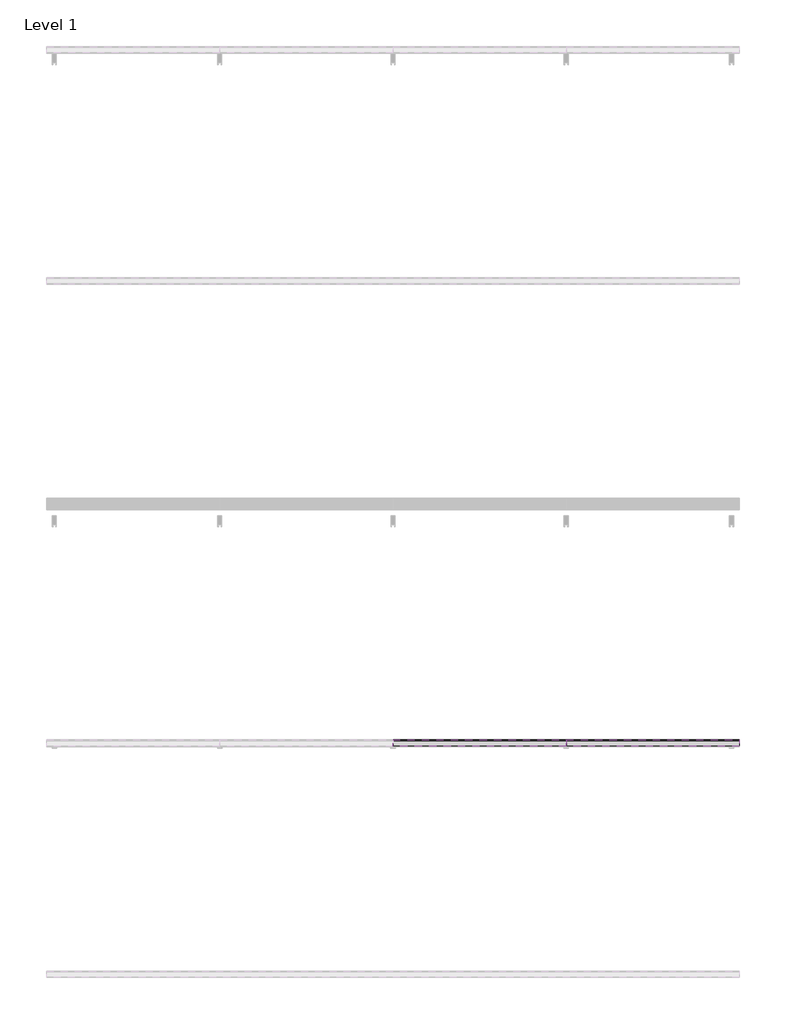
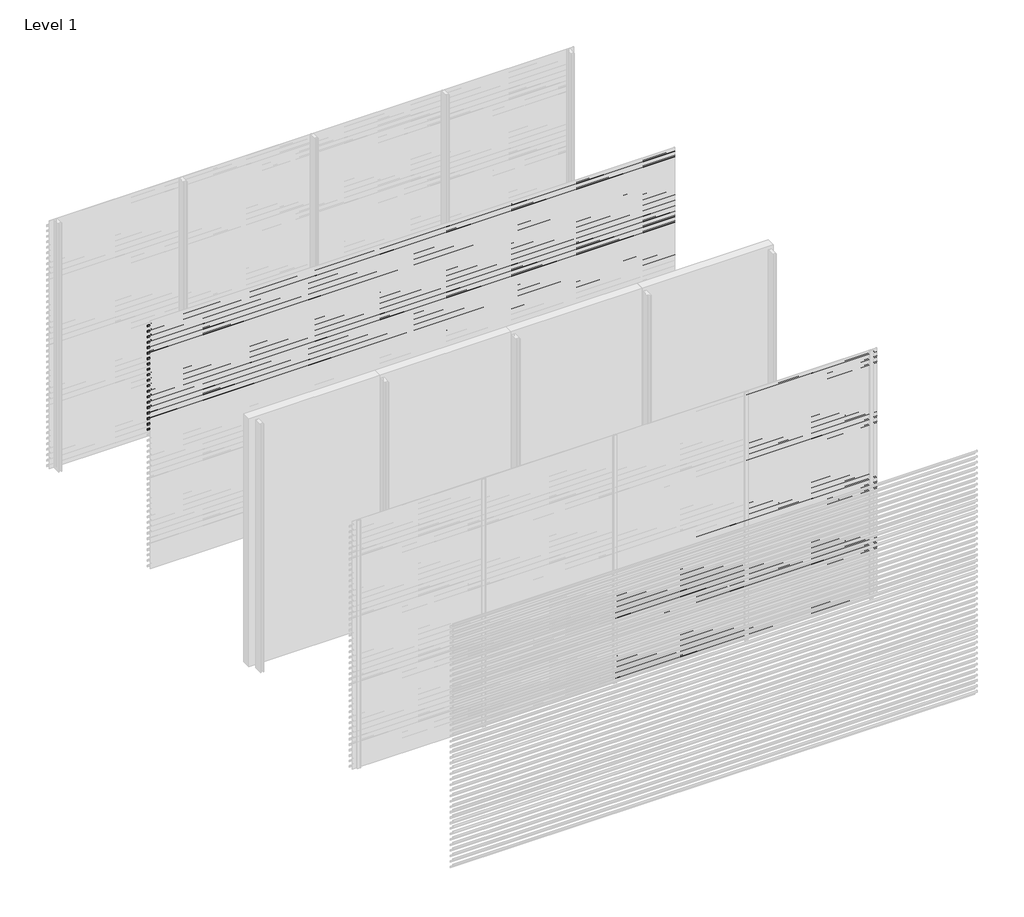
# One storey, part 15 of 25: 87 proxies.
"""IFC4 building model written with IfcOpenShell, lengths in millimetres."""

from ifc_helpers import new_model, si_unit, frame, origin, place, context, project, spatial, polyline, outline, extrude, element, save

model = new_model("IFC4")

# Units and contexts
model_context = context("Model", 3, world=origin())
ifc_project = project(units=[si_unit("LENGTHUNIT", "METRE", prefix="MILLI")], contexts=[model_context])

# Site, building, storey
site = spatial("IfcSite", under=ifc_project)
building = spatial("IfcBuilding", under=site)
storey = spatial("IfcBuildingStorey", under=building, Name="Level 1", Elevation=0.0)

# Proxies
placement = place(None, origin())
element("IfcBuildingElementProxy", 1, Name="Wall Sweeps", at=placement, inside=storey, context=model_context, shape_type="SweptSolid", body=[
    extrude(outline(polyline([(-19943.0, 2913.5), (-19943.0, 2893.5), (-19944.25, 2894.2216933), (-19944.25, 2912.7872415), (-19998.0, 2950.3158044), (-19998.0, 2970.0), (-19996.75, 2970.0), (-19996.75, 2951.0285629), (-19943.0, 2913.5)])), frame((0.0, 0.0, 0.0), z_axis=(1.0, 0.0, 0.0), x_axis=(0.0, 1.0, 0.0)), (0.0, 0.0, 1.0), 6000.0),
])
element("IfcBuildingElementProxy", 2, Name="Wall Sweeps", at=placement, inside=storey, context=model_context, shape_type="SweptSolid", body=[
    extrude(outline(polyline([(-19943.0, 2847.5), (-19943.0, 2827.5), (-19944.25, 2828.2216933), (-19944.25, 2846.7872415), (-19998.0, 2884.3158044), (-19998.0, 2904.0), (-19996.75, 2904.0), (-19996.75, 2885.0285629), (-19943.0, 2847.5)])), frame((0.0, 0.0, 0.0), z_axis=(1.0, 0.0, 0.0), x_axis=(0.0, 1.0, 0.0)), (0.0, 0.0, 1.0), 6000.0),
])
element("IfcBuildingElementProxy", 3, Name="Wall Sweeps", at=placement, inside=storey, context=model_context, shape_type="SweptSolid", body=[
    extrude(outline(polyline([(-19943.0, 2781.5), (-19943.0, 2761.5), (-19944.25, 2762.2216933), (-19944.25, 2780.7872415), (-19998.0, 2818.3158044), (-19998.0, 2838.0), (-19996.75, 2838.0), (-19996.75, 2819.0285629), (-19943.0, 2781.5)])), frame((0.0, 0.0, 0.0), z_axis=(1.0, 0.0, 0.0), x_axis=(0.0, 1.0, 0.0)), (0.0, 0.0, 1.0), 6000.0),
])
element("IfcBuildingElementProxy", 4, Name="Wall Sweeps", at=placement, inside=storey, context=model_context, shape_type="SweptSolid", body=[
    extrude(outline(polyline([(-19943.0, 2715.5), (-19943.0, 2695.5), (-19944.25, 2696.2216933), (-19944.25, 2714.7872415), (-19998.0, 2752.3158044), (-19998.0, 2772.0), (-19996.75, 2772.0), (-19996.75, 2753.0285629), (-19943.0, 2715.5)])), frame((0.0, 0.0, 0.0), z_axis=(1.0, 0.0, 0.0), x_axis=(0.0, 1.0, 0.0)), (0.0, 0.0, 1.0), 6000.0),
])
element("IfcBuildingElementProxy", 5, Name="Wall Sweeps", at=placement, inside=storey, context=model_context, shape_type="SweptSolid", body=[
    extrude(outline(polyline([(-19943.0, 2649.5), (-19943.0, 2629.5), (-19944.25, 2630.2216933), (-19944.25, 2648.7872415), (-19998.0, 2686.3158044), (-19998.0, 2706.0), (-19996.75, 2706.0), (-19996.75, 2687.0285629), (-19943.0, 2649.5)])), frame((0.0, 0.0, 0.0), z_axis=(1.0, 0.0, 0.0), x_axis=(0.0, 1.0, 0.0)), (0.0, 0.0, 1.0), 6000.0),
])
element("IfcBuildingElementProxy", 6, Name="Wall Sweeps", at=placement, inside=storey, context=model_context, shape_type="SweptSolid", body=[
    extrude(outline(polyline([(-19943.0, 2583.5), (-19943.0, 2563.5), (-19944.25, 2564.2216933), (-19944.25, 2582.7872415), (-19998.0, 2620.3158044), (-19998.0, 2640.0), (-19996.75, 2640.0), (-19996.75, 2621.0285629), (-19943.0, 2583.5)])), frame((0.0, 0.0, 0.0), z_axis=(1.0, 0.0, 0.0), x_axis=(0.0, 1.0, 0.0)), (0.0, 0.0, 1.0), 6000.0),
])
element("IfcBuildingElementProxy", 7, Name="Wall Sweeps", at=placement, inside=storey, context=model_context, shape_type="SweptSolid", body=[
    extrude(outline(polyline([(-19943.0, 2517.5), (-19943.0, 2497.5), (-19944.25, 2498.2216933), (-19944.25, 2516.7872415), (-19998.0, 2554.3158044), (-19998.0, 2574.0), (-19996.75, 2574.0), (-19996.75, 2555.0285629), (-19943.0, 2517.5)])), frame((0.0, 0.0, 0.0), z_axis=(1.0, 0.0, 0.0), x_axis=(0.0, 1.0, 0.0)), (0.0, 0.0, 1.0), 6000.0),
])
element("IfcBuildingElementProxy", 8, Name="Wall Sweeps", at=placement, inside=storey, context=model_context, shape_type="SweptSolid", body=[
    extrude(outline(polyline([(-19943.0, 2451.5), (-19943.0, 2431.5), (-19944.25, 2432.2216933), (-19944.25, 2450.7872415), (-19998.0, 2488.3158044), (-19998.0, 2508.0), (-19996.75, 2508.0), (-19996.75, 2489.0285629), (-19943.0, 2451.5)])), frame((0.0, 0.0, 0.0), z_axis=(1.0, 0.0, 0.0), x_axis=(0.0, 1.0, 0.0)), (0.0, 0.0, 1.0), 6000.0),
])
element("IfcBuildingElementProxy", 9, Name="Wall Sweeps", at=placement, inside=storey, context=model_context, shape_type="SweptSolid", body=[
    extrude(outline(polyline([(-19943.0, 2385.5), (-19943.0, 2365.5), (-19944.25, 2366.2216933), (-19944.25, 2384.7872415), (-19998.0, 2422.3158044), (-19998.0, 2442.0), (-19996.75, 2442.0), (-19996.75, 2423.0285629), (-19943.0, 2385.5)])), frame((0.0, 0.0, 0.0), z_axis=(1.0, 0.0, 0.0), x_axis=(0.0, 1.0, 0.0)), (0.0, 0.0, 1.0), 6000.0),
])
element("IfcBuildingElementProxy", 10, Name="Wall Sweeps", at=placement, inside=storey, context=model_context, shape_type="SweptSolid", body=[
    extrude(outline(polyline([(-19943.0, 2319.5), (-19943.0, 2299.5), (-19944.25, 2300.2216933), (-19944.25, 2318.7872415), (-19998.0, 2356.3158044), (-19998.0, 2376.0), (-19996.75, 2376.0), (-19996.75, 2357.0285629), (-19943.0, 2319.5)])), frame((0.0, 0.0, 0.0), z_axis=(1.0, 0.0, 0.0), x_axis=(0.0, 1.0, 0.0)), (0.0, 0.0, 1.0), 6000.0),
])
element("IfcBuildingElementProxy", 11, Name="Wall Sweeps", at=placement, inside=storey, context=model_context, shape_type="SweptSolid", body=[
    extrude(outline(polyline([(-19943.0, 2253.5), (-19943.0, 2233.5), (-19944.25, 2234.2216933), (-19944.25, 2252.7872415), (-19998.0, 2290.3158044), (-19998.0, 2310.0), (-19996.75, 2310.0), (-19996.75, 2291.0285629), (-19943.0, 2253.5)])), frame((0.0, 0.0, 0.0), z_axis=(1.0, 0.0, 0.0), x_axis=(0.0, 1.0, 0.0)), (0.0, 0.0, 1.0), 6000.0),
])
element("IfcBuildingElementProxy", 12, Name="Wall Sweeps", at=placement, inside=storey, context=model_context, shape_type="SweptSolid", body=[
    extrude(outline(polyline([(-19943.0, 2187.5), (-19943.0, 2167.5), (-19944.25, 2168.2216933), (-19944.25, 2186.7872415), (-19998.0, 2224.3158044), (-19998.0, 2244.0), (-19996.75, 2244.0), (-19996.75, 2225.0285629), (-19943.0, 2187.5)])), frame((0.0, 0.0, 0.0), z_axis=(1.0, 0.0, 0.0), x_axis=(0.0, 1.0, 0.0)), (0.0, 0.0, 1.0), 6000.0),
])
element("IfcBuildingElementProxy", 13, Name="Wall Sweeps", at=placement, inside=storey, context=model_context, shape_type="SweptSolid", body=[
    extrude(outline(polyline([(-19943.0, 2121.5), (-19943.0, 2101.5), (-19944.25, 2102.2216933), (-19944.25, 2120.7872415), (-19998.0, 2158.3158044), (-19998.0, 2178.0), (-19996.75, 2178.0), (-19996.75, 2159.0285629), (-19943.0, 2121.5)])), frame((0.0, 0.0, 0.0), z_axis=(1.0, 0.0, 0.0), x_axis=(0.0, 1.0, 0.0)), (0.0, 0.0, 1.0), 6000.0),
])
element("IfcBuildingElementProxy", 14, Name="Wall Sweeps", at=placement, inside=storey, context=model_context, shape_type="SweptSolid", body=[
    extrude(outline(polyline([(-19943.0, 2055.5), (-19943.0, 2035.5), (-19944.25, 2036.2216933), (-19944.25, 2054.7872415), (-19998.0, 2092.3158044), (-19998.0, 2112.0), (-19996.75, 2112.0), (-19996.75, 2093.0285629), (-19943.0, 2055.5)])), frame((0.0, 0.0, 0.0), z_axis=(1.0, 0.0, 0.0), x_axis=(0.0, 1.0, 0.0)), (0.0, 0.0, 1.0), 6000.0),
])
element("IfcBuildingElementProxy", 15, Name="Wall Sweeps", at=placement, inside=storey, context=model_context, shape_type="SweptSolid", body=[
    extrude(outline(polyline([(-19943.0, 1989.5), (-19943.0, 1969.5), (-19944.25, 1970.2216933), (-19944.25, 1988.7872415), (-19998.0, 2026.3158044), (-19998.0, 2046.0), (-19996.75, 2046.0), (-19996.75, 2027.0285629), (-19943.0, 1989.5)])), frame((0.0, 0.0, 0.0), z_axis=(1.0, 0.0, 0.0), x_axis=(0.0, 1.0, 0.0)), (0.0, 0.0, 1.0), 6000.0),
])
element("IfcBuildingElementProxy", 16, Name="Wall Sweeps", at=placement, inside=storey, context=model_context, shape_type="SweptSolid", body=[
    extrude(outline(polyline([(-19943.0, 1923.5), (-19943.0, 1903.5), (-19944.25, 1904.2216933), (-19944.25, 1922.7872415), (-19998.0, 1960.3158044), (-19998.0, 1980.0), (-19996.75, 1980.0), (-19996.75, 1961.0285629), (-19943.0, 1923.5)])), frame((0.0, 0.0, 0.0), z_axis=(1.0, 0.0, 0.0), x_axis=(0.0, 1.0, 0.0)), (0.0, 0.0, 1.0), 6000.0),
])
element("IfcBuildingElementProxy", 17, Name="Wall Sweeps", at=placement, inside=storey, context=model_context, shape_type="SweptSolid", body=[
    extrude(outline(polyline([(-19943.0, 1857.5), (-19943.0, 1837.5), (-19944.25, 1838.2216933), (-19944.25, 1856.7872415), (-19998.0, 1894.3158044), (-19998.0, 1914.0), (-19996.75, 1914.0), (-19996.75, 1895.0285629), (-19943.0, 1857.5)])), frame((0.0, 0.0, 0.0), z_axis=(1.0, 0.0, 0.0), x_axis=(0.0, 1.0, 0.0)), (0.0, 0.0, 1.0), 6000.0),
])
element("IfcBuildingElementProxy", 18, Name="Wall Sweeps", at=placement, inside=storey, context=model_context, shape_type="SweptSolid", body=[
    extrude(outline(polyline([(-19943.0, 1791.5), (-19943.0, 1771.5), (-19944.25, 1772.2216933), (-19944.25, 1790.7872415), (-19998.0, 1828.3158044), (-19998.0, 1848.0), (-19996.75, 1848.0), (-19996.75, 1829.0285629), (-19943.0, 1791.5)])), frame((0.0, 0.0, 0.0), z_axis=(1.0, 0.0, 0.0), x_axis=(0.0, 1.0, 0.0)), (0.0, 0.0, 1.0), 6000.0),
])
element("IfcBuildingElementProxy", 19, Name="Wall Sweeps", at=placement, inside=storey, context=model_context, shape_type="SweptSolid", body=[
    extrude(outline(polyline([(-19943.0, 1725.5), (-19943.0, 1705.5), (-19944.25, 1706.2216933), (-19944.25, 1724.7872415), (-19998.0, 1762.3158044), (-19998.0, 1782.0), (-19996.75, 1782.0), (-19996.75, 1763.0285629), (-19943.0, 1725.5)])), frame((0.0, 0.0, 0.0), z_axis=(1.0, 0.0, 0.0), x_axis=(0.0, 1.0, 0.0)), (0.0, 0.0, 1.0), 6000.0),
])
element("IfcBuildingElementProxy", 20, Name="Wall Sweeps", at=placement, inside=storey, context=model_context, shape_type="SweptSolid", body=[
    extrude(outline(polyline([(-19943.0, 1659.5), (-19943.0, 1639.5), (-19944.25, 1640.2216933), (-19944.25, 1658.7872415), (-19998.0, 1696.3158044), (-19998.0, 1716.0), (-19996.75, 1716.0), (-19996.75, 1697.0285629), (-19943.0, 1659.5)])), frame((0.0, 0.0, 0.0), z_axis=(1.0, 0.0, 0.0), x_axis=(0.0, 1.0, 0.0)), (0.0, 0.0, 1.0), 6000.0),
])
element("IfcBuildingElementProxy", 21, Name="Wall Sweeps", at=placement, inside=storey, context=model_context, shape_type="SweptSolid", body=[
    extrude(outline(polyline([(-23943.0, 1395.5), (-23943.0, 1375.5), (-23944.25, 1376.2216933), (-23944.25, 1394.7872415), (-23998.0, 1432.3158044), (-23998.0, 1452.0), (-23996.75, 1452.0), (-23996.75, 1433.0285629), (-23943.0, 1395.5)])), frame((3000.0, 0.0, 0.0), z_axis=(1.0, 0.0, 0.0), x_axis=(0.0, 1.0, 0.0)), (0.0, 0.0, 1.0), 1500.0),
])
element("IfcBuildingElementProxy", 22, Name="Wall Sweeps", at=placement, inside=storey, context=model_context, shape_type="SweptSolid", body=[
    extrude(outline(polyline([(-23943.0, 1329.5), (-23943.0, 1309.5), (-23944.25, 1310.2216933), (-23944.25, 1328.7872415), (-23998.0, 1366.3158044), (-23998.0, 1386.0), (-23996.75, 1386.0), (-23996.75, 1367.0285629), (-23943.0, 1329.5)])), frame((3000.0, 0.0, 0.0), z_axis=(1.0, 0.0, 0.0), x_axis=(0.0, 1.0, 0.0)), (0.0, 0.0, 1.0), 1500.0),
])
element("IfcBuildingElementProxy", 23, Name="Wall Sweeps", at=placement, inside=storey, context=model_context, shape_type="SweptSolid", body=[
    extrude(outline(polyline([(-23943.0, 1263.5), (-23943.0, 1243.5), (-23944.25, 1244.2216933), (-23944.25, 1262.7872415), (-23998.0, 1300.3158044), (-23998.0, 1320.0), (-23996.75, 1320.0), (-23996.75, 1301.0285629), (-23943.0, 1263.5)])), frame((3000.0, 0.0, 0.0), z_axis=(1.0, 0.0, 0.0), x_axis=(0.0, 1.0, 0.0)), (0.0, 0.0, 1.0), 1500.0),
])
element("IfcBuildingElementProxy", 24, Name="Wall Sweeps", at=placement, inside=storey, context=model_context, shape_type="SweptSolid", body=[
    extrude(outline(polyline([(-23943.0, 1197.5), (-23943.0, 1177.5), (-23944.25, 1178.2216933), (-23944.25, 1196.7872415), (-23998.0, 1234.3158044), (-23998.0, 1254.0), (-23996.75, 1254.0), (-23996.75, 1235.0285629), (-23943.0, 1197.5)])), frame((3000.0, 0.0, 0.0), z_axis=(1.0, 0.0, 0.0), x_axis=(0.0, 1.0, 0.0)), (0.0, 0.0, 1.0), 1500.0),
])
element("IfcBuildingElementProxy", 25, Name="Wall Sweeps", at=placement, inside=storey, context=model_context, shape_type="SweptSolid", body=[
    extrude(outline(polyline([(-23943.0, 1131.5), (-23943.0, 1111.5), (-23944.25, 1112.2216933), (-23944.25, 1130.7872415), (-23998.0, 1168.3158044), (-23998.0, 1188.0), (-23996.75, 1188.0), (-23996.75, 1169.0285629), (-23943.0, 1131.5)])), frame((3000.0, 0.0, 0.0), z_axis=(1.0, 0.0, 0.0), x_axis=(0.0, 1.0, 0.0)), (0.0, 0.0, 1.0), 1500.0),
])
element("IfcBuildingElementProxy", 26, Name="Wall Sweeps", at=placement, inside=storey, context=model_context, shape_type="SweptSolid", body=[
    extrude(outline(polyline([(-23943.0, 1065.5), (-23943.0, 1045.5), (-23944.25, 1046.2216933), (-23944.25, 1064.7872415), (-23998.0, 1102.3158044), (-23998.0, 1122.0), (-23996.75, 1122.0), (-23996.75, 1103.0285629), (-23943.0, 1065.5)])), frame((3000.0, 0.0, 0.0), z_axis=(1.0, 0.0, 0.0), x_axis=(0.0, 1.0, 0.0)), (0.0, 0.0, 1.0), 1500.0),
])
element("IfcBuildingElementProxy", 27, Name="Wall Sweeps", at=placement, inside=storey, context=model_context, shape_type="SweptSolid", body=[
    extrude(outline(polyline([(-23943.0, 999.5), (-23943.0, 979.5), (-23944.25, 980.2216933), (-23944.25, 998.7872415), (-23998.0, 1036.3158044), (-23998.0, 1056.0), (-23996.75, 1056.0), (-23996.75, 1037.0285629), (-23943.0, 999.5)])), frame((3000.0, 0.0, 0.0), z_axis=(1.0, 0.0, 0.0), x_axis=(0.0, 1.0, 0.0)), (0.0, 0.0, 1.0), 1500.0),
])
element("IfcBuildingElementProxy", 28, Name="Wall Sweeps", at=placement, inside=storey, context=model_context, shape_type="SweptSolid", body=[
    extrude(outline(polyline([(-23943.0, 933.5), (-23943.0, 913.5), (-23944.25, 914.2216933), (-23944.25, 932.7872415), (-23998.0, 970.3158044), (-23998.0, 990.0), (-23996.75, 990.0), (-23996.75, 971.0285629), (-23943.0, 933.5)])), frame((3000.0, 0.0, 0.0), z_axis=(1.0, 0.0, 0.0), x_axis=(0.0, 1.0, 0.0)), (0.0, 0.0, 1.0), 1500.0),
])
element("IfcBuildingElementProxy", 29, Name="Wall Sweeps", at=placement, inside=storey, context=model_context, shape_type="SweptSolid", body=[
    extrude(outline(polyline([(-23943.0, 867.5), (-23943.0, 847.5), (-23944.25, 848.2216933), (-23944.25, 866.7872415), (-23998.0, 904.3158044), (-23998.0, 924.0), (-23996.75, 924.0), (-23996.75, 905.0285629), (-23943.0, 867.5)])), frame((3000.0, 0.0, 0.0), z_axis=(1.0, 0.0, 0.0), x_axis=(0.0, 1.0, 0.0)), (0.0, 0.0, 1.0), 1500.0),
])
element("IfcBuildingElementProxy", 30, Name="Wall Sweeps", at=placement, inside=storey, context=model_context, shape_type="SweptSolid", body=[
    extrude(outline(polyline([(-23943.0, 801.5), (-23943.0, 781.5), (-23944.25, 782.2216933), (-23944.25, 800.7872415), (-23998.0, 838.3158044), (-23998.0, 858.0), (-23996.75, 858.0), (-23996.75, 839.0285629), (-23943.0, 801.5)])), frame((3000.0, 0.0, 0.0), z_axis=(1.0, 0.0, 0.0), x_axis=(0.0, 1.0, 0.0)), (0.0, 0.0, 1.0), 1500.0),
])
element("IfcBuildingElementProxy", 31, Name="Wall Sweeps", at=placement, inside=storey, context=model_context, shape_type="SweptSolid", body=[
    extrude(outline(polyline([(-23943.0, 735.5), (-23943.0, 715.5), (-23944.25, 716.2216933), (-23944.25, 734.7872415), (-23998.0, 772.3158044), (-23998.0, 792.0), (-23996.75, 792.0), (-23996.75, 773.0285629), (-23943.0, 735.5)])), frame((3000.0, 0.0, 0.0), z_axis=(1.0, 0.0, 0.0), x_axis=(0.0, 1.0, 0.0)), (0.0, 0.0, 1.0), 1500.0),
])
element("IfcBuildingElementProxy", 32, Name="Wall Sweeps", at=placement, inside=storey, context=model_context, shape_type="SweptSolid", body=[
    extrude(outline(polyline([(-23943.0, 669.5), (-23943.0, 649.5), (-23944.25, 650.2216933), (-23944.25, 668.7872415), (-23998.0, 706.3158044), (-23998.0, 726.0), (-23996.75, 726.0), (-23996.75, 707.0285629), (-23943.0, 669.5)])), frame((3000.0, 0.0, 0.0), z_axis=(1.0, 0.0, 0.0), x_axis=(0.0, 1.0, 0.0)), (0.0, 0.0, 1.0), 1500.0),
])
element("IfcBuildingElementProxy", 33, Name="Wall Sweeps", at=placement, inside=storey, context=model_context, shape_type="SweptSolid", body=[
    extrude(outline(polyline([(-23943.0, 603.5), (-23943.0, 583.5), (-23944.25, 584.2216933), (-23944.25, 602.7872415), (-23998.0, 640.3158044), (-23998.0, 660.0), (-23996.75, 660.0), (-23996.75, 641.0285629), (-23943.0, 603.5)])), frame((3000.0, 0.0, 0.0), z_axis=(1.0, 0.0, 0.0), x_axis=(0.0, 1.0, 0.0)), (0.0, 0.0, 1.0), 1500.0),
])
element("IfcBuildingElementProxy", 34, Name="Wall Sweeps", at=placement, inside=storey, context=model_context, shape_type="SweptSolid", body=[
    extrude(outline(polyline([(-23943.0, 537.5), (-23943.0, 517.5), (-23944.25, 518.2216933), (-23944.25, 536.7872415), (-23998.0, 574.3158044), (-23998.0, 594.0), (-23996.75, 594.0), (-23996.75, 575.0285629), (-23943.0, 537.5)])), frame((3000.0, 0.0, 0.0), z_axis=(1.0, 0.0, 0.0), x_axis=(0.0, 1.0, 0.0)), (0.0, 0.0, 1.0), 1500.0),
])
element("IfcBuildingElementProxy", 35, Name="Wall Sweeps", at=placement, inside=storey, context=model_context, shape_type="SweptSolid", body=[
    extrude(outline(polyline([(-23943.0, 471.5), (-23943.0, 451.5), (-23944.25, 452.2216933), (-23944.25, 470.7872415), (-23998.0, 508.3158044), (-23998.0, 528.0), (-23996.75, 528.0), (-23996.75, 509.0285629), (-23943.0, 471.5)])), frame((3000.0, 0.0, 0.0), z_axis=(1.0, 0.0, 0.0), x_axis=(0.0, 1.0, 0.0)), (0.0, 0.0, 1.0), 1500.0),
])
element("IfcBuildingElementProxy", 36, Name="Wall Sweeps", at=placement, inside=storey, context=model_context, shape_type="SweptSolid", body=[
    extrude(outline(polyline([(-23943.0, 405.5), (-23943.0, 385.5), (-23944.25, 386.2216933), (-23944.25, 404.7872415), (-23998.0, 442.3158044), (-23998.0, 462.0), (-23996.75, 462.0), (-23996.75, 443.0285629), (-23943.0, 405.5)])), frame((3000.0, 0.0, 0.0), z_axis=(1.0, 0.0, 0.0), x_axis=(0.0, 1.0, 0.0)), (0.0, 0.0, 1.0), 1500.0),
])
element("IfcBuildingElementProxy", 37, Name="Wall Sweeps", at=placement, inside=storey, context=model_context, shape_type="SweptSolid", body=[
    extrude(outline(polyline([(-23943.0, 339.5), (-23943.0, 319.5), (-23944.25, 320.2216933), (-23944.25, 338.7872415), (-23998.0, 376.3158044), (-23998.0, 396.0), (-23996.75, 396.0), (-23996.75, 377.0285629), (-23943.0, 339.5)])), frame((3000.0, 0.0, 0.0), z_axis=(1.0, 0.0, 0.0), x_axis=(0.0, 1.0, 0.0)), (0.0, 0.0, 1.0), 1500.0),
])
element("IfcBuildingElementProxy", 38, Name="Wall Sweeps", at=placement, inside=storey, context=model_context, shape_type="SweptSolid", body=[
    extrude(outline(polyline([(-23943.0, 273.5), (-23943.0, 253.5), (-23944.25, 254.2216933), (-23944.25, 272.7872415), (-23998.0, 310.3158044), (-23998.0, 330.0), (-23996.75, 330.0), (-23996.75, 311.0285629), (-23943.0, 273.5)])), frame((3000.0, 0.0, 0.0), z_axis=(1.0, 0.0, 0.0), x_axis=(0.0, 1.0, 0.0)), (0.0, 0.0, 1.0), 1500.0),
])
element("IfcBuildingElementProxy", 39, Name="Wall Sweeps", at=placement, inside=storey, context=model_context, shape_type="SweptSolid", body=[
    extrude(outline(polyline([(-23943.0, 207.5), (-23943.0, 187.5), (-23944.25, 188.2216933), (-23944.25, 206.7872415), (-23998.0, 244.3158044), (-23998.0, 264.0), (-23996.75, 264.0), (-23996.75, 245.0285629), (-23943.0, 207.5)])), frame((3000.0, 0.0, 0.0), z_axis=(1.0, 0.0, 0.0), x_axis=(0.0, 1.0, 0.0)), (0.0, 0.0, 1.0), 1500.0),
])
element("IfcBuildingElementProxy", 40, Name="Wall Sweeps", at=placement, inside=storey, context=model_context, shape_type="SweptSolid", body=[
    extrude(outline(polyline([(-23943.0, 141.5), (-23943.0, 121.5), (-23944.25, 122.2216933), (-23944.25, 140.7872415), (-23998.0, 178.3158044), (-23998.0, 198.0), (-23996.75, 198.0), (-23996.75, 179.0285629), (-23943.0, 141.5)])), frame((3000.0, 0.0, 0.0), z_axis=(1.0, 0.0, 0.0), x_axis=(0.0, 1.0, 0.0)), (0.0, 0.0, 1.0), 1500.0),
])
element("IfcBuildingElementProxy", 41, Name="Wall Sweeps", at=placement, inside=storey, context=model_context, shape_type="SweptSolid", body=[
    extrude(outline(polyline([(-23943.0, 75.5), (-23943.0, 55.5), (-23944.25, 56.2216933), (-23944.25, 74.7872415), (-23998.0, 112.3158044), (-23998.0, 132.0), (-23996.75, 132.0), (-23996.75, 113.0285629), (-23943.0, 75.5)])), frame((3000.0, 0.0, 0.0), z_axis=(1.0, 0.0, 0.0), x_axis=(0.0, 1.0, 0.0)), (0.0, 0.0, 1.0), 1500.0),
])
element("IfcBuildingElementProxy", 42, Name="Wall Sweeps", at=placement, inside=storey, context=model_context, shape_type="SweptSolid", body=[
    extrude(outline(polyline([(-23943.0, 9.5), (-23943.0, -10.5), (-23944.25, -9.7783067), (-23944.25, 8.7872415), (-23998.0, 46.3158044), (-23998.0, 66.0), (-23996.75, 66.0), (-23996.75, 47.0285629), (-23943.0, 9.5)])), frame((3000.0, 0.0, 0.0), z_axis=(1.0, 0.0, 0.0), x_axis=(0.0, 1.0, 0.0)), (0.0, 0.0, 1.0), 1500.0),
])
element("IfcBuildingElementProxy", 43, Name="Wall Sweeps", at=placement, inside=storey, context=model_context, shape_type="SweptSolid", body=[
    extrude(outline(polyline([(-23943.0, 2913.5), (-23943.0, 2893.5), (-23944.25, 2894.2216933), (-23944.25, 2912.7872415), (-23998.0, 2950.3158044), (-23998.0, 2970.0), (-23996.75, 2970.0), (-23996.75, 2951.0285629), (-23943.0, 2913.5)])), frame((4500.0, 0.0, 0.0), z_axis=(1.0, 0.0, 0.0), x_axis=(0.0, 1.0, 0.0)), (0.0, 0.0, 1.0), 1500.0),
])
element("IfcBuildingElementProxy", 44, Name="Wall Sweeps", at=placement, inside=storey, context=model_context, shape_type="SweptSolid", body=[
    extrude(outline(polyline([(-23943.0, 2847.5), (-23943.0, 2827.5), (-23944.25, 2828.2216933), (-23944.25, 2846.7872415), (-23998.0, 2884.3158044), (-23998.0, 2904.0), (-23996.75, 2904.0), (-23996.75, 2885.0285629), (-23943.0, 2847.5)])), frame((4500.0, 0.0, 0.0), z_axis=(1.0, 0.0, 0.0), x_axis=(0.0, 1.0, 0.0)), (0.0, 0.0, 1.0), 1500.0),
])
element("IfcBuildingElementProxy", 45, Name="Wall Sweeps", at=placement, inside=storey, context=model_context, shape_type="SweptSolid", body=[
    extrude(outline(polyline([(-23943.0, 2781.5), (-23943.0, 2761.5), (-23944.25, 2762.2216933), (-23944.25, 2780.7872415), (-23998.0, 2818.3158044), (-23998.0, 2838.0), (-23996.75, 2838.0), (-23996.75, 2819.0285629), (-23943.0, 2781.5)])), frame((4500.0, 0.0, 0.0), z_axis=(1.0, 0.0, 0.0), x_axis=(0.0, 1.0, 0.0)), (0.0, 0.0, 1.0), 1500.0),
])
element("IfcBuildingElementProxy", 46, Name="Wall Sweeps", at=placement, inside=storey, context=model_context, shape_type="SweptSolid", body=[
    extrude(outline(polyline([(-23943.0, 2715.5), (-23943.0, 2695.5), (-23944.25, 2696.2216933), (-23944.25, 2714.7872415), (-23998.0, 2752.3158044), (-23998.0, 2772.0), (-23996.75, 2772.0), (-23996.75, 2753.0285629), (-23943.0, 2715.5)])), frame((4500.0, 0.0, 0.0), z_axis=(1.0, 0.0, 0.0), x_axis=(0.0, 1.0, 0.0)), (0.0, 0.0, 1.0), 1500.0),
])
element("IfcBuildingElementProxy", 47, Name="Wall Sweeps", at=placement, inside=storey, context=model_context, shape_type="SweptSolid", body=[
    extrude(outline(polyline([(-23943.0, 2649.5), (-23943.0, 2629.5), (-23944.25, 2630.2216933), (-23944.25, 2648.7872415), (-23998.0, 2686.3158044), (-23998.0, 2706.0), (-23996.75, 2706.0), (-23996.75, 2687.0285629), (-23943.0, 2649.5)])), frame((4500.0, 0.0, 0.0), z_axis=(1.0, 0.0, 0.0), x_axis=(0.0, 1.0, 0.0)), (0.0, 0.0, 1.0), 1500.0),
])
element("IfcBuildingElementProxy", 48, Name="Wall Sweeps", at=placement, inside=storey, context=model_context, shape_type="SweptSolid", body=[
    extrude(outline(polyline([(-23943.0, 2583.5), (-23943.0, 2563.5), (-23944.25, 2564.2216933), (-23944.25, 2582.7872415), (-23998.0, 2620.3158044), (-23998.0, 2640.0), (-23996.75, 2640.0), (-23996.75, 2621.0285629), (-23943.0, 2583.5)])), frame((4500.0, 0.0, 0.0), z_axis=(1.0, 0.0, 0.0), x_axis=(0.0, 1.0, 0.0)), (0.0, 0.0, 1.0), 1500.0),
])
element("IfcBuildingElementProxy", 49, Name="Wall Sweeps", at=placement, inside=storey, context=model_context, shape_type="SweptSolid", body=[
    extrude(outline(polyline([(-23943.0, 2517.5), (-23943.0, 2497.5), (-23944.25, 2498.2216933), (-23944.25, 2516.7872415), (-23998.0, 2554.3158044), (-23998.0, 2574.0), (-23996.75, 2574.0), (-23996.75, 2555.0285629), (-23943.0, 2517.5)])), frame((4500.0, 0.0, 0.0), z_axis=(1.0, 0.0, 0.0), x_axis=(0.0, 1.0, 0.0)), (0.0, 0.0, 1.0), 1500.0),
])
element("IfcBuildingElementProxy", 50, Name="Wall Sweeps", at=placement, inside=storey, context=model_context, shape_type="SweptSolid", body=[
    extrude(outline(polyline([(-23943.0, 2451.5), (-23943.0, 2431.5), (-23944.25, 2432.2216933), (-23944.25, 2450.7872415), (-23998.0, 2488.3158044), (-23998.0, 2508.0), (-23996.75, 2508.0), (-23996.75, 2489.0285629), (-23943.0, 2451.5)])), frame((4500.0, 0.0, 0.0), z_axis=(1.0, 0.0, 0.0), x_axis=(0.0, 1.0, 0.0)), (0.0, 0.0, 1.0), 1500.0),
])
element("IfcBuildingElementProxy", 51, Name="Wall Sweeps", at=placement, inside=storey, context=model_context, shape_type="SweptSolid", body=[
    extrude(outline(polyline([(-23943.0, 2385.5), (-23943.0, 2365.5), (-23944.25, 2366.2216933), (-23944.25, 2384.7872415), (-23998.0, 2422.3158044), (-23998.0, 2442.0), (-23996.75, 2442.0), (-23996.75, 2423.0285629), (-23943.0, 2385.5)])), frame((4500.0, 0.0, 0.0), z_axis=(1.0, 0.0, 0.0), x_axis=(0.0, 1.0, 0.0)), (0.0, 0.0, 1.0), 1500.0),
])
element("IfcBuildingElementProxy", 52, Name="Wall Sweeps", at=placement, inside=storey, context=model_context, shape_type="SweptSolid", body=[
    extrude(outline(polyline([(-23943.0, 2319.5), (-23943.0, 2299.5), (-23944.25, 2300.2216933), (-23944.25, 2318.7872415), (-23998.0, 2356.3158044), (-23998.0, 2376.0), (-23996.75, 2376.0), (-23996.75, 2357.0285629), (-23943.0, 2319.5)])), frame((4500.0, 0.0, 0.0), z_axis=(1.0, 0.0, 0.0), x_axis=(0.0, 1.0, 0.0)), (0.0, 0.0, 1.0), 1500.0),
])
element("IfcBuildingElementProxy", 53, Name="Wall Sweeps", at=placement, inside=storey, context=model_context, shape_type="SweptSolid", body=[
    extrude(outline(polyline([(-23943.0, 2253.5), (-23943.0, 2233.5), (-23944.25, 2234.2216933), (-23944.25, 2252.7872415), (-23998.0, 2290.3158044), (-23998.0, 2310.0), (-23996.75, 2310.0), (-23996.75, 2291.0285629), (-23943.0, 2253.5)])), frame((4500.0, 0.0, 0.0), z_axis=(1.0, 0.0, 0.0), x_axis=(0.0, 1.0, 0.0)), (0.0, 0.0, 1.0), 1500.0),
])
element("IfcBuildingElementProxy", 54, Name="Wall Sweeps", at=placement, inside=storey, context=model_context, shape_type="SweptSolid", body=[
    extrude(outline(polyline([(-23943.0, 2187.5), (-23943.0, 2167.5), (-23944.25, 2168.2216933), (-23944.25, 2186.7872415), (-23998.0, 2224.3158044), (-23998.0, 2244.0), (-23996.75, 2244.0), (-23996.75, 2225.0285629), (-23943.0, 2187.5)])), frame((4500.0, 0.0, 0.0), z_axis=(1.0, 0.0, 0.0), x_axis=(0.0, 1.0, 0.0)), (0.0, 0.0, 1.0), 1500.0),
])
element("IfcBuildingElementProxy", 55, Name="Wall Sweeps", at=placement, inside=storey, context=model_context, shape_type="SweptSolid", body=[
    extrude(outline(polyline([(-23943.0, 2121.5), (-23943.0, 2101.5), (-23944.25, 2102.2216933), (-23944.25, 2120.7872415), (-23998.0, 2158.3158044), (-23998.0, 2178.0), (-23996.75, 2178.0), (-23996.75, 2159.0285629), (-23943.0, 2121.5)])), frame((4500.0, 0.0, 0.0), z_axis=(1.0, 0.0, 0.0), x_axis=(0.0, 1.0, 0.0)), (0.0, 0.0, 1.0), 1500.0),
])
element("IfcBuildingElementProxy", 56, Name="Wall Sweeps", at=placement, inside=storey, context=model_context, shape_type="SweptSolid", body=[
    extrude(outline(polyline([(-23943.0, 2055.5), (-23943.0, 2035.5), (-23944.25, 2036.2216933), (-23944.25, 2054.7872415), (-23998.0, 2092.3158044), (-23998.0, 2112.0), (-23996.75, 2112.0), (-23996.75, 2093.0285629), (-23943.0, 2055.5)])), frame((4500.0, 0.0, 0.0), z_axis=(1.0, 0.0, 0.0), x_axis=(0.0, 1.0, 0.0)), (0.0, 0.0, 1.0), 1500.0),
])
element("IfcBuildingElementProxy", 57, Name="Wall Sweeps", at=placement, inside=storey, context=model_context, shape_type="SweptSolid", body=[
    extrude(outline(polyline([(-23943.0, 1989.5), (-23943.0, 1969.5), (-23944.25, 1970.2216933), (-23944.25, 1988.7872415), (-23998.0, 2026.3158044), (-23998.0, 2046.0), (-23996.75, 2046.0), (-23996.75, 2027.0285629), (-23943.0, 1989.5)])), frame((4500.0, 0.0, 0.0), z_axis=(1.0, 0.0, 0.0), x_axis=(0.0, 1.0, 0.0)), (0.0, 0.0, 1.0), 1500.0),
])
element("IfcBuildingElementProxy", 58, Name="Wall Sweeps", at=placement, inside=storey, context=model_context, shape_type="SweptSolid", body=[
    extrude(outline(polyline([(-23943.0, 1923.5), (-23943.0, 1903.5), (-23944.25, 1904.2216933), (-23944.25, 1922.7872415), (-23998.0, 1960.3158044), (-23998.0, 1980.0), (-23996.75, 1980.0), (-23996.75, 1961.0285629), (-23943.0, 1923.5)])), frame((4500.0, 0.0, 0.0), z_axis=(1.0, 0.0, 0.0), x_axis=(0.0, 1.0, 0.0)), (0.0, 0.0, 1.0), 1500.0),
])
element("IfcBuildingElementProxy", 59, Name="Wall Sweeps", at=placement, inside=storey, context=model_context, shape_type="SweptSolid", body=[
    extrude(outline(polyline([(-23943.0, 1857.5), (-23943.0, 1837.5), (-23944.25, 1838.2216933), (-23944.25, 1856.7872415), (-23998.0, 1894.3158044), (-23998.0, 1914.0), (-23996.75, 1914.0), (-23996.75, 1895.0285629), (-23943.0, 1857.5)])), frame((4500.0, 0.0, 0.0), z_axis=(1.0, 0.0, 0.0), x_axis=(0.0, 1.0, 0.0)), (0.0, 0.0, 1.0), 1500.0),
])
element("IfcBuildingElementProxy", 60, Name="Wall Sweeps", at=placement, inside=storey, context=model_context, shape_type="SweptSolid", body=[
    extrude(outline(polyline([(-23943.0, 1791.5), (-23943.0, 1771.5), (-23944.25, 1772.2216933), (-23944.25, 1790.7872415), (-23998.0, 1828.3158044), (-23998.0, 1848.0), (-23996.75, 1848.0), (-23996.75, 1829.0285629), (-23943.0, 1791.5)])), frame((4500.0, 0.0, 0.0), z_axis=(1.0, 0.0, 0.0), x_axis=(0.0, 1.0, 0.0)), (0.0, 0.0, 1.0), 1500.0),
])
element("IfcBuildingElementProxy", 61, Name="Wall Sweeps", at=placement, inside=storey, context=model_context, shape_type="SweptSolid", body=[
    extrude(outline(polyline([(-23943.0, 1725.5), (-23943.0, 1705.5), (-23944.25, 1706.2216933), (-23944.25, 1724.7872415), (-23998.0, 1762.3158044), (-23998.0, 1782.0), (-23996.75, 1782.0), (-23996.75, 1763.0285629), (-23943.0, 1725.5)])), frame((4500.0, 0.0, 0.0), z_axis=(1.0, 0.0, 0.0), x_axis=(0.0, 1.0, 0.0)), (0.0, 0.0, 1.0), 1500.0),
])
element("IfcBuildingElementProxy", 62, Name="Wall Sweeps", at=placement, inside=storey, context=model_context, shape_type="SweptSolid", body=[
    extrude(outline(polyline([(-23943.0, 1659.5), (-23943.0, 1639.5), (-23944.25, 1640.2216933), (-23944.25, 1658.7872415), (-23998.0, 1696.3158044), (-23998.0, 1716.0), (-23996.75, 1716.0), (-23996.75, 1697.0285629), (-23943.0, 1659.5)])), frame((4500.0, 0.0, 0.0), z_axis=(1.0, 0.0, 0.0), x_axis=(0.0, 1.0, 0.0)), (0.0, 0.0, 1.0), 1500.0),
])
element("IfcBuildingElementProxy", 63, Name="Wall Sweeps", at=placement, inside=storey, context=model_context, shape_type="SweptSolid", body=[
    extrude(outline(polyline([(-23943.0, 1593.5), (-23943.0, 1573.5), (-23944.25, 1574.2216933), (-23944.25, 1592.7872415), (-23998.0, 1630.3158044), (-23998.0, 1650.0), (-23996.75, 1650.0), (-23996.75, 1631.0285629), (-23943.0, 1593.5)])), frame((4500.0, 0.0, 0.0), z_axis=(1.0, 0.0, 0.0), x_axis=(0.0, 1.0, 0.0)), (0.0, 0.0, 1.0), 1500.0),
])
element("IfcBuildingElementProxy", 64, Name="Wall Sweeps", at=placement, inside=storey, context=model_context, shape_type="SweptSolid", body=[
    extrude(outline(polyline([(-23943.0, 1527.5), (-23943.0, 1507.5), (-23944.25, 1508.2216933), (-23944.25, 1526.7872415), (-23998.0, 1564.3158044), (-23998.0, 1584.0), (-23996.75, 1584.0), (-23996.75, 1565.0285629), (-23943.0, 1527.5)])), frame((4500.0, 0.0, 0.0), z_axis=(1.0, 0.0, 0.0), x_axis=(0.0, 1.0, 0.0)), (0.0, 0.0, 1.0), 1500.0),
])
element("IfcBuildingElementProxy", 65, Name="Wall Sweeps", at=placement, inside=storey, context=model_context, shape_type="SweptSolid", body=[
    extrude(outline(polyline([(-23943.0, 1461.5), (-23943.0, 1441.5), (-23944.25, 1442.2216933), (-23944.25, 1460.7872415), (-23998.0, 1498.3158044), (-23998.0, 1518.0), (-23996.75, 1518.0), (-23996.75, 1499.0285629), (-23943.0, 1461.5)])), frame((4500.0, 0.0, 0.0), z_axis=(1.0, 0.0, 0.0), x_axis=(0.0, 1.0, 0.0)), (0.0, 0.0, 1.0), 1500.0),
])
element("IfcBuildingElementProxy", 66, Name="Wall Sweeps", at=placement, inside=storey, context=model_context, shape_type="SweptSolid", body=[
    extrude(outline(polyline([(-23943.0, 1395.5), (-23943.0, 1375.5), (-23944.25, 1376.2216933), (-23944.25, 1394.7872415), (-23998.0, 1432.3158044), (-23998.0, 1452.0), (-23996.75, 1452.0), (-23996.75, 1433.0285629), (-23943.0, 1395.5)])), frame((4500.0, 0.0, 0.0), z_axis=(1.0, 0.0, 0.0), x_axis=(0.0, 1.0, 0.0)), (0.0, 0.0, 1.0), 1500.0),
])
element("IfcBuildingElementProxy", 67, Name="Wall Sweeps", at=placement, inside=storey, context=model_context, shape_type="SweptSolid", body=[
    extrude(outline(polyline([(-23943.0, 1329.5), (-23943.0, 1309.5), (-23944.25, 1310.2216933), (-23944.25, 1328.7872415), (-23998.0, 1366.3158044), (-23998.0, 1386.0), (-23996.75, 1386.0), (-23996.75, 1367.0285629), (-23943.0, 1329.5)])), frame((4500.0, 0.0, 0.0), z_axis=(1.0, 0.0, 0.0), x_axis=(0.0, 1.0, 0.0)), (0.0, 0.0, 1.0), 1500.0),
])
element("IfcBuildingElementProxy", 68, Name="Wall Sweeps", at=placement, inside=storey, context=model_context, shape_type="SweptSolid", body=[
    extrude(outline(polyline([(-23943.0, 1263.5), (-23943.0, 1243.5), (-23944.25, 1244.2216933), (-23944.25, 1262.7872415), (-23998.0, 1300.3158044), (-23998.0, 1320.0), (-23996.75, 1320.0), (-23996.75, 1301.0285629), (-23943.0, 1263.5)])), frame((4500.0, 0.0, 0.0), z_axis=(1.0, 0.0, 0.0), x_axis=(0.0, 1.0, 0.0)), (0.0, 0.0, 1.0), 1500.0),
])
element("IfcBuildingElementProxy", 69, Name="Wall Sweeps", at=placement, inside=storey, context=model_context, shape_type="SweptSolid", body=[
    extrude(outline(polyline([(-23943.0, 1197.5), (-23943.0, 1177.5), (-23944.25, 1178.2216933), (-23944.25, 1196.7872415), (-23998.0, 1234.3158044), (-23998.0, 1254.0), (-23996.75, 1254.0), (-23996.75, 1235.0285629), (-23943.0, 1197.5)])), frame((4500.0, 0.0, 0.0), z_axis=(1.0, 0.0, 0.0), x_axis=(0.0, 1.0, 0.0)), (0.0, 0.0, 1.0), 1500.0),
])
element("IfcBuildingElementProxy", 70, Name="Wall Sweeps", at=placement, inside=storey, context=model_context, shape_type="SweptSolid", body=[
    extrude(outline(polyline([(-23943.0, 1131.5), (-23943.0, 1111.5), (-23944.25, 1112.2216933), (-23944.25, 1130.7872415), (-23998.0, 1168.3158044), (-23998.0, 1188.0), (-23996.75, 1188.0), (-23996.75, 1169.0285629), (-23943.0, 1131.5)])), frame((4500.0, 0.0, 0.0), z_axis=(1.0, 0.0, 0.0), x_axis=(0.0, 1.0, 0.0)), (0.0, 0.0, 1.0), 1500.0),
])
element("IfcBuildingElementProxy", 71, Name="Wall Sweeps", at=placement, inside=storey, context=model_context, shape_type="SweptSolid", body=[
    extrude(outline(polyline([(-23943.0, 1065.5), (-23943.0, 1045.5), (-23944.25, 1046.2216933), (-23944.25, 1064.7872415), (-23998.0, 1102.3158044), (-23998.0, 1122.0), (-23996.75, 1122.0), (-23996.75, 1103.0285629), (-23943.0, 1065.5)])), frame((4500.0, 0.0, 0.0), z_axis=(1.0, 0.0, 0.0), x_axis=(0.0, 1.0, 0.0)), (0.0, 0.0, 1.0), 1500.0),
])
element("IfcBuildingElementProxy", 72, Name="Wall Sweeps", at=placement, inside=storey, context=model_context, shape_type="SweptSolid", body=[
    extrude(outline(polyline([(-23943.0, 999.5), (-23943.0, 979.5), (-23944.25, 980.2216933), (-23944.25, 998.7872415), (-23998.0, 1036.3158044), (-23998.0, 1056.0), (-23996.75, 1056.0), (-23996.75, 1037.0285629), (-23943.0, 999.5)])), frame((4500.0, 0.0, 0.0), z_axis=(1.0, 0.0, 0.0), x_axis=(0.0, 1.0, 0.0)), (0.0, 0.0, 1.0), 1500.0),
])
element("IfcBuildingElementProxy", 73, Name="Wall Sweeps", at=placement, inside=storey, context=model_context, shape_type="SweptSolid", body=[
    extrude(outline(polyline([(-23943.0, 933.5), (-23943.0, 913.5), (-23944.25, 914.2216933), (-23944.25, 932.7872415), (-23998.0, 970.3158044), (-23998.0, 990.0), (-23996.75, 990.0), (-23996.75, 971.0285629), (-23943.0, 933.5)])), frame((4500.0, 0.0, 0.0), z_axis=(1.0, 0.0, 0.0), x_axis=(0.0, 1.0, 0.0)), (0.0, 0.0, 1.0), 1500.0),
])
element("IfcBuildingElementProxy", 74, Name="Wall Sweeps", at=placement, inside=storey, context=model_context, shape_type="SweptSolid", body=[
    extrude(outline(polyline([(-23943.0, 867.5), (-23943.0, 847.5), (-23944.25, 848.2216933), (-23944.25, 866.7872415), (-23998.0, 904.3158044), (-23998.0, 924.0), (-23996.75, 924.0), (-23996.75, 905.0285629), (-23943.0, 867.5)])), frame((4500.0, 0.0, 0.0), z_axis=(1.0, 0.0, 0.0), x_axis=(0.0, 1.0, 0.0)), (0.0, 0.0, 1.0), 1500.0),
])
element("IfcBuildingElementProxy", 75, Name="Wall Sweeps", at=placement, inside=storey, context=model_context, shape_type="SweptSolid", body=[
    extrude(outline(polyline([(-23943.0, 801.5), (-23943.0, 781.5), (-23944.25, 782.2216933), (-23944.25, 800.7872415), (-23998.0, 838.3158044), (-23998.0, 858.0), (-23996.75, 858.0), (-23996.75, 839.0285629), (-23943.0, 801.5)])), frame((4500.0, 0.0, 0.0), z_axis=(1.0, 0.0, 0.0), x_axis=(0.0, 1.0, 0.0)), (0.0, 0.0, 1.0), 1500.0),
])
element("IfcBuildingElementProxy", 76, Name="Wall Sweeps", at=placement, inside=storey, context=model_context, shape_type="SweptSolid", body=[
    extrude(outline(polyline([(-23943.0, 735.5), (-23943.0, 715.5), (-23944.25, 716.2216933), (-23944.25, 734.7872415), (-23998.0, 772.3158044), (-23998.0, 792.0), (-23996.75, 792.0), (-23996.75, 773.0285629), (-23943.0, 735.5)])), frame((4500.0, 0.0, 0.0), z_axis=(1.0, 0.0, 0.0), x_axis=(0.0, 1.0, 0.0)), (0.0, 0.0, 1.0), 1500.0),
])
element("IfcBuildingElementProxy", 77, Name="Wall Sweeps", at=placement, inside=storey, context=model_context, shape_type="SweptSolid", body=[
    extrude(outline(polyline([(-23943.0, 669.5), (-23943.0, 649.5), (-23944.25, 650.2216933), (-23944.25, 668.7872415), (-23998.0, 706.3158044), (-23998.0, 726.0), (-23996.75, 726.0), (-23996.75, 707.0285629), (-23943.0, 669.5)])), frame((4500.0, 0.0, 0.0), z_axis=(1.0, 0.0, 0.0), x_axis=(0.0, 1.0, 0.0)), (0.0, 0.0, 1.0), 1500.0),
])
element("IfcBuildingElementProxy", 78, Name="Wall Sweeps", at=placement, inside=storey, context=model_context, shape_type="SweptSolid", body=[
    extrude(outline(polyline([(-23943.0, 603.5), (-23943.0, 583.5), (-23944.25, 584.2216933), (-23944.25, 602.7872415), (-23998.0, 640.3158044), (-23998.0, 660.0), (-23996.75, 660.0), (-23996.75, 641.0285629), (-23943.0, 603.5)])), frame((4500.0, 0.0, 0.0), z_axis=(1.0, 0.0, 0.0), x_axis=(0.0, 1.0, 0.0)), (0.0, 0.0, 1.0), 1500.0),
])
element("IfcBuildingElementProxy", 79, Name="Wall Sweeps", at=placement, inside=storey, context=model_context, shape_type="SweptSolid", body=[
    extrude(outline(polyline([(-23943.0, 537.5), (-23943.0, 517.5), (-23944.25, 518.2216933), (-23944.25, 536.7872415), (-23998.0, 574.3158044), (-23998.0, 594.0), (-23996.75, 594.0), (-23996.75, 575.0285629), (-23943.0, 537.5)])), frame((4500.0, 0.0, 0.0), z_axis=(1.0, 0.0, 0.0), x_axis=(0.0, 1.0, 0.0)), (0.0, 0.0, 1.0), 1500.0),
])
element("IfcBuildingElementProxy", 80, Name="Wall Sweeps", at=placement, inside=storey, context=model_context, shape_type="SweptSolid", body=[
    extrude(outline(polyline([(-23943.0, 471.5), (-23943.0, 451.5), (-23944.25, 452.2216933), (-23944.25, 470.7872415), (-23998.0, 508.3158044), (-23998.0, 528.0), (-23996.75, 528.0), (-23996.75, 509.0285629), (-23943.0, 471.5)])), frame((4500.0, 0.0, 0.0), z_axis=(1.0, 0.0, 0.0), x_axis=(0.0, 1.0, 0.0)), (0.0, 0.0, 1.0), 1500.0),
])
element("IfcBuildingElementProxy", 81, Name="Wall Sweeps", at=placement, inside=storey, context=model_context, shape_type="SweptSolid", body=[
    extrude(outline(polyline([(-23943.0, 405.5), (-23943.0, 385.5), (-23944.25, 386.2216933), (-23944.25, 404.7872415), (-23998.0, 442.3158044), (-23998.0, 462.0), (-23996.75, 462.0), (-23996.75, 443.0285629), (-23943.0, 405.5)])), frame((4500.0, 0.0, 0.0), z_axis=(1.0, 0.0, 0.0), x_axis=(0.0, 1.0, 0.0)), (0.0, 0.0, 1.0), 1500.0),
])
element("IfcBuildingElementProxy", 82, Name="Wall Sweeps", at=placement, inside=storey, context=model_context, shape_type="SweptSolid", body=[
    extrude(outline(polyline([(-23943.0, 339.5), (-23943.0, 319.5), (-23944.25, 320.2216933), (-23944.25, 338.7872415), (-23998.0, 376.3158044), (-23998.0, 396.0), (-23996.75, 396.0), (-23996.75, 377.0285629), (-23943.0, 339.5)])), frame((4500.0, 0.0, 0.0), z_axis=(1.0, 0.0, 0.0), x_axis=(0.0, 1.0, 0.0)), (0.0, 0.0, 1.0), 1500.0),
])
element("IfcBuildingElementProxy", 83, Name="Wall Sweeps", at=placement, inside=storey, context=model_context, shape_type="SweptSolid", body=[
    extrude(outline(polyline([(-23943.0, 273.5), (-23943.0, 253.5), (-23944.25, 254.2216933), (-23944.25, 272.7872415), (-23998.0, 310.3158044), (-23998.0, 330.0), (-23996.75, 330.0), (-23996.75, 311.0285629), (-23943.0, 273.5)])), frame((4500.0, 0.0, 0.0), z_axis=(1.0, 0.0, 0.0), x_axis=(0.0, 1.0, 0.0)), (0.0, 0.0, 1.0), 1500.0),
])
element("IfcBuildingElementProxy", 84, Name="Wall Sweeps", at=placement, inside=storey, context=model_context, shape_type="SweptSolid", body=[
    extrude(outline(polyline([(-23943.0, 207.5), (-23943.0, 187.5), (-23944.25, 188.2216933), (-23944.25, 206.7872415), (-23998.0, 244.3158044), (-23998.0, 264.0), (-23996.75, 264.0), (-23996.75, 245.0285629), (-23943.0, 207.5)])), frame((4500.0, 0.0, 0.0), z_axis=(1.0, 0.0, 0.0), x_axis=(0.0, 1.0, 0.0)), (0.0, 0.0, 1.0), 1500.0),
])
element("IfcBuildingElementProxy", 85, Name="Wall Sweeps", at=placement, inside=storey, context=model_context, shape_type="SweptSolid", body=[
    extrude(outline(polyline([(-23943.0, 141.5), (-23943.0, 121.5), (-23944.25, 122.2216933), (-23944.25, 140.7872415), (-23998.0, 178.3158044), (-23998.0, 198.0), (-23996.75, 198.0), (-23996.75, 179.0285629), (-23943.0, 141.5)])), frame((4500.0, 0.0, 0.0), z_axis=(1.0, 0.0, 0.0), x_axis=(0.0, 1.0, 0.0)), (0.0, 0.0, 1.0), 1500.0),
])
element("IfcBuildingElementProxy", 86, Name="Wall Sweeps", at=placement, inside=storey, context=model_context, shape_type="SweptSolid", body=[
    extrude(outline(polyline([(-23943.0, 75.5), (-23943.0, 55.5), (-23944.25, 56.2216933), (-23944.25, 74.7872415), (-23998.0, 112.3158044), (-23998.0, 132.0), (-23996.75, 132.0), (-23996.75, 113.0285629), (-23943.0, 75.5)])), frame((4500.0, 0.0, 0.0), z_axis=(1.0, 0.0, 0.0), x_axis=(0.0, 1.0, 0.0)), (0.0, 0.0, 1.0), 1500.0),
])
element("IfcBuildingElementProxy", 87, Name="Wall Sweeps", at=placement, inside=storey, context=model_context, shape_type="SweptSolid", body=[
    extrude(outline(polyline([(-23943.0, 9.5), (-23943.0, -10.5), (-23944.25, -9.7783067), (-23944.25, 8.7872415), (-23998.0, 46.3158044), (-23998.0, 66.0), (-23996.75, 66.0), (-23996.75, 47.0285629), (-23943.0, 9.5)])), frame((4500.0, 0.0, 0.0), z_axis=(1.0, 0.0, 0.0), x_axis=(0.0, 1.0, 0.0)), (0.0, 0.0, 1.0), 1500.0),
])

save(model, "model.ifc")
